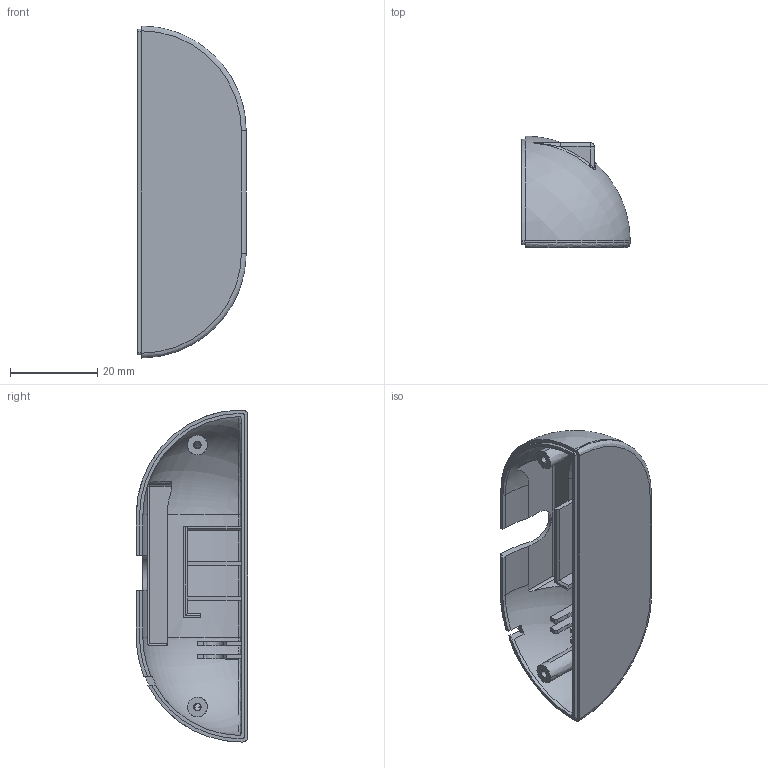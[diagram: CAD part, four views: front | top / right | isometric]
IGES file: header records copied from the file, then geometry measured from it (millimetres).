
Global section: file name: Filename.iges; native system: Open CASCADE 7.5; preprocessor: Open CASCADE IGES processor 7.5; date: 20210414.165702; units: millimetre
Bounding box: 24.8 x 25.5 x 76 mm (x, y, z)
Surface area: 11527.8 mm2 (no closed solid volume)
Topology: 0 solids, 0 shells, 140 faces, 760 edges, 760 vertices
Faces by surface type: bspline 73, revolution 67
